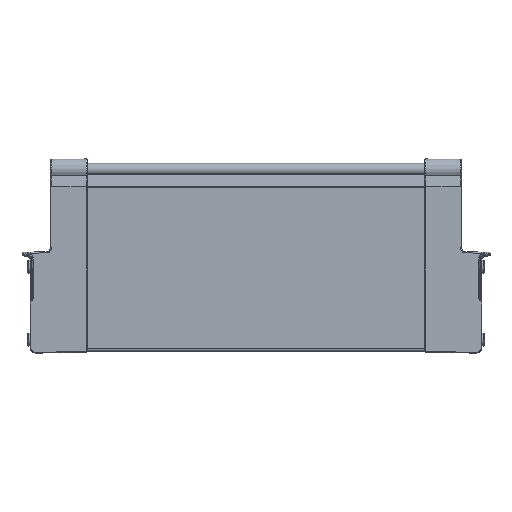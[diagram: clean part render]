
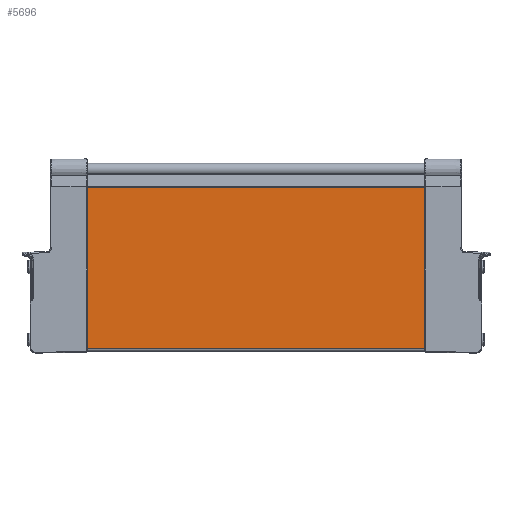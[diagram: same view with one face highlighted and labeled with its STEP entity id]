
A CAD part, top view. The second image highlights one B-rep face of the part: STEP entity #5696.
In plain terms, the highlighted planar face has unit normal (0, 0, 1).
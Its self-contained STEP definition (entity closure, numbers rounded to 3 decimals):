
#235 = DIRECTION ( 'NONE',  ( 0., -1., 0. ) ) ;
#236 = VECTOR ( 'NONE', #235, 1000. ) ;
#237 = CARTESIAN_POINT ( 'NONE',  ( -268.3, 45.248, 4.05 ) ) ;
#238 = LINE ( 'NONE', #237, #236 ) ;
#281 = CARTESIAN_POINT ( 'NONE',  ( -268.3, -64.725, 4.05 ) ) ;
#309 = CARTESIAN_POINT ( 'NONE',  ( -268.3, 45.248, 4.05 ) ) ;
#337 = DIRECTION ( 'NONE',  ( -1., 0., 0. ) ) ;
#338 = VECTOR ( 'NONE', #337, 1000. ) ;
#339 = CARTESIAN_POINT ( 'NONE',  ( 89.157, -64.725, 4.05 ) ) ;
#340 = LINE ( 'NONE', #339, #338 ) ;
#362 = DIRECTION ( 'NONE',  ( 0., 1., 0. ) ) ;
#363 = DIRECTION ( 'NONE',  ( 0., 0., -1. ) ) ;
#364 = CARTESIAN_POINT ( 'NONE',  ( 89.157, 45.248, 4.05 ) ) ;
#365 = AXIS2_PLACEMENT_3D ( 'NONE', #364, #363, #362 ) ;
#366 = PLANE ( 'NONE',  #365 ) ;
#367 = FACE_OUTER_BOUND ( 'NONE', #5697, .T. ) ;
#368 = DIRECTION ( 'NONE',  ( -1., 0., 0. ) ) ;
#369 = VECTOR ( 'NONE', #368, 1000. ) ;
#370 = CARTESIAN_POINT ( 'NONE',  ( 89.157, 45.248, 4.05 ) ) ;
#371 = LINE ( 'NONE', #370, #369 ) ;
#4154 = CARTESIAN_POINT ( 'NONE',  ( -38.8, -64.725, 4.05 ) ) ;
#4160 = CARTESIAN_POINT ( 'NONE',  ( -38.8, 45.248, 4.05 ) ) ;
#4213 = DIRECTION ( 'NONE',  ( 0., -1., 0. ) ) ;
#4214 = VECTOR ( 'NONE', #4213, 1000. ) ;
#4215 = CARTESIAN_POINT ( 'NONE',  ( -38.8, 45.248, 4.05 ) ) ;
#4216 = LINE ( 'NONE', #4215, #4214 ) ;
#5621 = ORIENTED_EDGE ( 'NONE', *, *, #5695, .T. ) ;
#5622 = ORIENTED_EDGE ( 'NONE', *, *, #5623, .T. ) ;
#5623 = EDGE_CURVE ( 'NONE', #5693, #5676, #238, .T. ) ;
#5676 = VERTEX_POINT ( 'NONE', #281 ) ;
#5677 = ORIENTED_EDGE ( 'NONE', *, *, #5678, .F. ) ;
#5678 = EDGE_CURVE ( 'NONE', #6887, #5676, #340, .T. ) ;
#5693 = VERTEX_POINT ( 'NONE', #309 ) ;
#5695 = EDGE_CURVE ( 'NONE', #6882, #5693, #371, .T. ) ;
#5696 = ADVANCED_FACE ( 'NONE', ( #367 ), #366, .F. ) ;
#5697 = EDGE_LOOP ( 'NONE', ( #5698, #5621, #5622, #5677 ) ) ;
#5698 = ORIENTED_EDGE ( 'NONE', *, *, #6889, .F. ) ;
#6882 = VERTEX_POINT ( 'NONE', #4160 ) ;
#6887 = VERTEX_POINT ( 'NONE', #4154 ) ;
#6889 = EDGE_CURVE ( 'NONE', #6882, #6887, #4216, .T. ) ;
